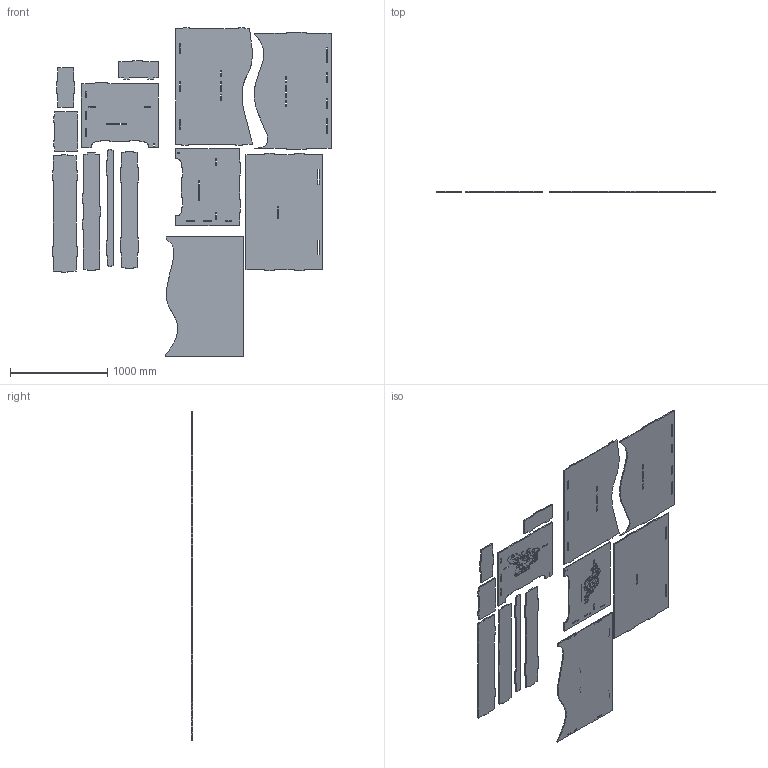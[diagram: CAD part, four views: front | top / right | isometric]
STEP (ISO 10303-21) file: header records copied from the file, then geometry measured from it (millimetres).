
FILE_DESCRIPTION(/* description */ (''),/* implementation_level */ '2;1');
FILE_NAME(/* name */ 'C:/Users/FAB/Desktop/table rev 2 v18.step',/* time_stamp */ '2018-06-11T18:10:28-04:00',/* author */ ('jeanluc.pierite'),/* organization */ (''),/* preprocessor_version */ 'ST-DEVELOPER v17',/* originating_system */ 'Autodesk Translation Framework v7.1.0.215',/* authorisation */ '');
FILE_SCHEMA (('AUTOMOTIVE_DESIGN { 1 0 10303 214 3 1 1 }'));
Length unit declared in the file: inch
Products named in the file (15): table rev 2; Left Leg; shelf BTM; backboard MID; shelf MID 2; middle pillar TOP; Right Leg; kick; middle pillar BTM; middle pillar MID; backboard TOP; backboard BTM; shelf MID; shelf TOP; stock
Assembly tree (15 placements, depth 2):
  table rev 2
    Left Leg
    shelf BTM
    backboard MID
    shelf MID 2
    middle pillar TOP
    stock  x2
    Right Leg
    kick
    middle pillar BTM
    middle pillar MID
    backboard TOP
    backboard BTM
    shelf MID
    shelf TOP
Bounding box: 2854.42 x 11.11 x 3370.12 mm (x, y, z)
Volume: 60954192 mm3; surface area: 11614066.9 mm2
Topology: 13 solids, 13 shells, 1325 faces, 3681 edges, 2454 vertices
Faces by surface type: plane 631, bspline 627, cylinder 67
Entity records: 44477 total; most frequent: CARTESIAN_POINT 16040, ORIENTED_EDGE 7362, DIRECTION 4008, EDGE_CURVE 3681, VERTEX_POINT 2454, LINE 2284, VECTOR 2284, EDGE_LOOP 1455
